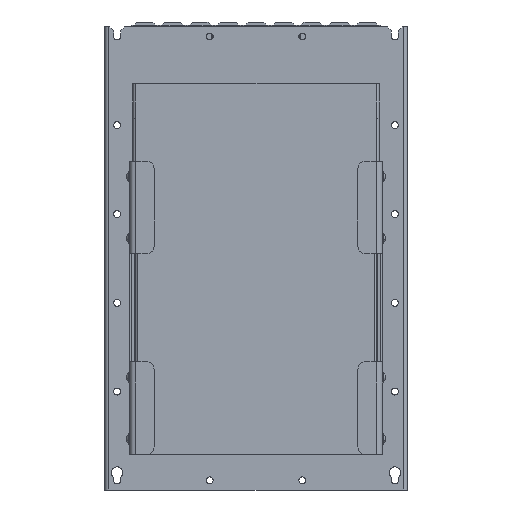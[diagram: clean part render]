
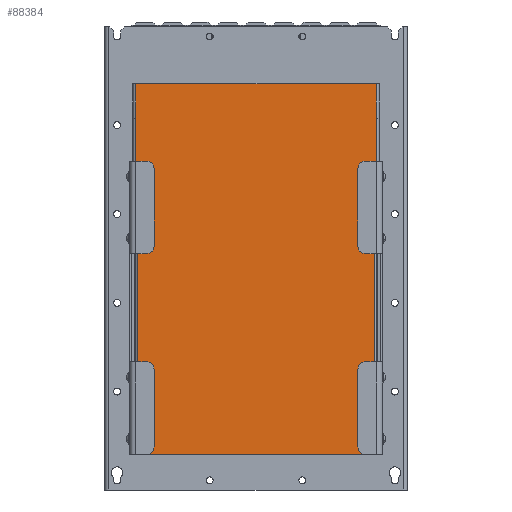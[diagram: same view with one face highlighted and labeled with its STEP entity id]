
A CAD part, front view. The second image highlights one B-rep face of the part: STEP entity #88384.
In plain terms, the highlighted planar face has unit normal (0, -1, 0).
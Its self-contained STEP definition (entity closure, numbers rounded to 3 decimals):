
#95 = EDGE_CURVE ( 'NONE', #70450, #12359, #99592, .T. ) ;
#836 = VECTOR ( 'NONE', #62648, 1000. ) ;
#1300 = DIRECTION ( 'NONE',  ( 0., 0., -1. ) ) ;
#2911 = LINE ( 'NONE', #102424, #9773 ) ;
#3130 = CARTESIAN_POINT ( 'NONE',  ( -164., -126., 46. ) ) ;
#5696 = VECTOR ( 'NONE', #29185, 1000. ) ;
#8180 = CARTESIAN_POINT ( 'NONE',  ( -153., -126., 426. ) ) ;
#8195 = CARTESIAN_POINT ( 'NONE',  ( 153., -126., -374. ) ) ;
#9773 = VECTOR ( 'NONE', #1300, 1000. ) ;
#12359 = VERTEX_POINT ( 'NONE', #27415 ) ;
#12839 = DIRECTION ( 'NONE',  ( -1., 0., 0. ) ) ;
#15187 = VECTOR ( 'NONE', #12839, 1000. ) ;
#16668 = DIRECTION ( 'NONE',  ( 0., 0., 1. ) ) ;
#20309 = VECTOR ( 'NONE', #50550, 1000. ) ;
#21436 = LINE ( 'NONE', #72591, #48407 ) ;
#25791 = VERTEX_POINT ( 'NONE', #43407 ) ;
#26026 = ORIENTED_EDGE ( 'NONE', *, *, #26334, .T. ) ;
#26334 = EDGE_CURVE ( 'NONE', #36741, #51527, #21436, .T. ) ;
#26975 = CARTESIAN_POINT ( 'NONE',  ( 153., -126., 46. ) ) ;
#27415 = CARTESIAN_POINT ( 'NONE',  ( 155.9, -126., 426. ) ) ;
#29185 = DIRECTION ( 'NONE',  ( 1., 0., 0. ) ) ;
#30507 = CARTESIAN_POINT ( 'NONE',  ( 144., -126., -374. ) ) ;
#30526 = CARTESIAN_POINT ( 'NONE',  ( 0., -126., 426. ) ) ;
#32035 = VERTEX_POINT ( 'NONE', #26975 ) ;
#32190 = EDGE_CURVE ( 'NONE', #12359, #25791, #48753, .T. ) ;
#36741 = VERTEX_POINT ( 'NONE', #8180 ) ;
#36839 = ORIENTED_EDGE ( 'NONE', *, *, #42035, .T. ) ;
#42035 = EDGE_CURVE ( 'NONE', #75863, #36741, #104513, .T. ) ;
#43407 = CARTESIAN_POINT ( 'NONE',  ( 155.9, -126., 526. ) ) ;
#48407 = VECTOR ( 'NONE', #63860, 1000. ) ;
#48428 = EDGE_CURVE ( 'NONE', #25791, #50625, #95537, .T. ) ;
#48753 = LINE ( 'NONE', #75447, #57796 ) ;
#48947 = FACE_OUTER_BOUND ( 'NONE', #73897, .T. ) ;
#50550 = DIRECTION ( 'NONE',  ( 0., 0., 1. ) ) ;
#50625 = VERTEX_POINT ( 'NONE', #103174 ) ;
#50787 = EDGE_CURVE ( 'NONE', #51527, #32035, #77659, .T. ) ;
#51405 = CARTESIAN_POINT ( 'NONE',  ( 153., -126., 426. ) ) ;
#51527 = VERTEX_POINT ( 'NONE', #52704 ) ;
#52704 = CARTESIAN_POINT ( 'NONE',  ( -153., -126., 46. ) ) ;
#57796 = VECTOR ( 'NONE', #16668, 1000. ) ;
#62648 = DIRECTION ( 'NONE',  ( 1., 0., 0. ) ) ;
#63860 = DIRECTION ( 'NONE',  ( 0., 0., -1. ) ) ;
#65334 = DIRECTION ( 'NONE',  ( 0., 1., 0. ) ) ;
#67752 = CARTESIAN_POINT ( 'NONE',  ( -155.9, -126., 426. ) ) ;
#70450 = VERTEX_POINT ( 'NONE', #51405 ) ;
#71868 = PLANE ( 'NONE',  #76926 ) ;
#72002 = ORIENTED_EDGE ( 'NONE', *, *, #48428, .T. ) ;
#72591 = CARTESIAN_POINT ( 'NONE',  ( -153., -126., 426. ) ) ;
#73897 = EDGE_LOOP ( 'NONE', ( #26026, #77074, #95632, #105240, #76921, #72002, #100772, #36839 ) ) ;
#75447 = CARTESIAN_POINT ( 'NONE',  ( 155.9, -126., 426. ) ) ;
#75863 = VERTEX_POINT ( 'NONE', #67752 ) ;
#76921 = ORIENTED_EDGE ( 'NONE', *, *, #32190, .T. ) ;
#76926 = AXIS2_PLACEMENT_3D ( 'NONE', #30507, #65334, #90368 ) ;
#77074 = ORIENTED_EDGE ( 'NONE', *, *, #50787, .T. ) ;
#77659 = LINE ( 'NONE', #3130, #5696 ) ;
#79096 = VECTOR ( 'NONE', #83307, 1000. ) ;
#83307 = DIRECTION ( 'NONE',  ( 1., 0., 0. ) ) ;
#88384 = ADVANCED_FACE ( 'NONE', ( #48947 ), #71868, .F. ) ;
#90368 = DIRECTION ( 'NONE',  ( 0., 0., -1. ) ) ;
#93092 = CARTESIAN_POINT ( 'NONE',  ( 0., -126., 426. ) ) ;
#93967 = CARTESIAN_POINT ( 'NONE',  ( -159.4, -126., 526. ) ) ;
#95537 = LINE ( 'NONE', #93967, #15187 ) ;
#95632 = ORIENTED_EDGE ( 'NONE', *, *, #106170, .T. ) ;
#98487 = LINE ( 'NONE', #8195, #20309 ) ;
#99592 = LINE ( 'NONE', #93092, #79096 ) ;
#100772 = ORIENTED_EDGE ( 'NONE', *, *, #104498, .T. ) ;
#102424 = CARTESIAN_POINT ( 'NONE',  ( -155.9, -126., 526. ) ) ;
#103174 = CARTESIAN_POINT ( 'NONE',  ( -155.9, -126., 526. ) ) ;
#104498 = EDGE_CURVE ( 'NONE', #50625, #75863, #2911, .T. ) ;
#104513 = LINE ( 'NONE', #30526, #836 ) ;
#105240 = ORIENTED_EDGE ( 'NONE', *, *, #95, .T. ) ;
#106170 = EDGE_CURVE ( 'NONE', #32035, #70450, #98487, .T. ) ;
